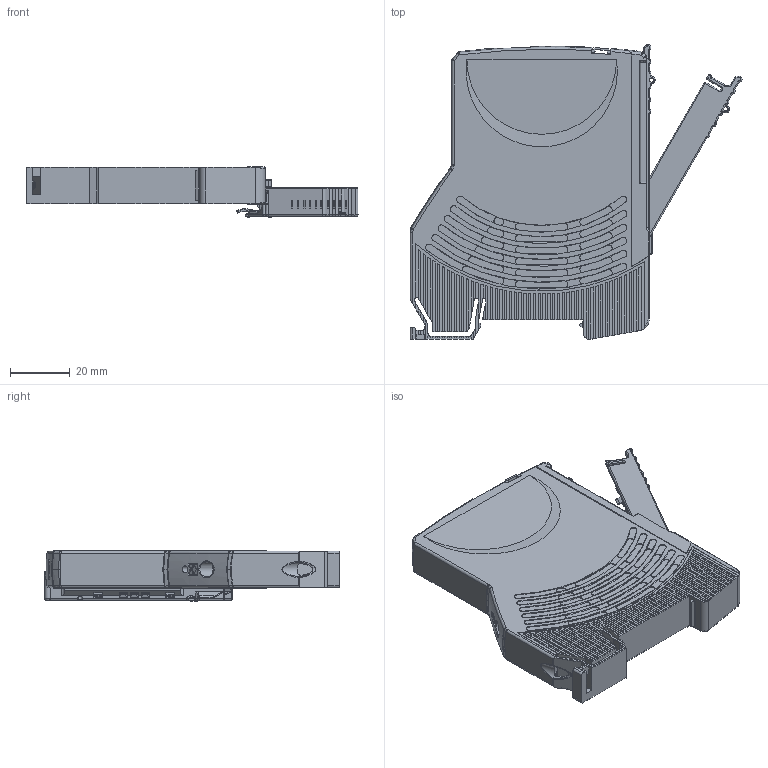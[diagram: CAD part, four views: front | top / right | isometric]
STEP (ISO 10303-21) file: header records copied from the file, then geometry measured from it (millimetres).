
FILE_DESCRIPTION((''),'2;1');
FILE_NAME('T-REX12-TA1-1XX_ASM','2016-04-22T',('hroth'),(''),'PRO/ENGINEER BY PARAMETRIC TECHNOLOGY CORPORATION, 2014200','PRO/ENGINEER BY PARAMETRIC TECHNOLOGY CORPORATION, 2014200','');
FILE_SCHEMA(('AUTOMOTIVE_DESIGN { 1 0 10303 214 1 1 1 1 }'));
Products named in the file (4): T-REX12-TA1-AXX_GEH; T-REX12-TXX_TASTER; T-REX12-TXX_HEB-SI1; T-REX12-TA1-1XX_ASM
Assembly tree (4 placements, depth 2):
  T-REX12-TA1-1XX_ASM
    T-REX12-TA1-AXX_GEH
    T-REX12-TXX_TASTER
    T-REX12-TXX_HEB-SI1  x2
Bounding box: 110.9 x 98.5 x 16.9 mm (x, y, z)
Volume: 80874.1 mm3; surface area: 29478.9 mm2
Topology: 4 solids, 4 shells, 2397 faces, 6563 edges, 4213 vertices
Faces by surface type: plane 1387, cylinder 758, bspline 103, torus 97, cone 28, sphere 23, extrusion 1
Entity records: 76837 total; most frequent: CARTESIAN_POINT 18362, ORIENTED_EDGE 10838, DIRECTION 10432, EDGE_CURVE 5419, VECTOR 3526, LINE 3525, VERTEX_POINT 3508, AXIS2_PLACEMENT_3D 3453
